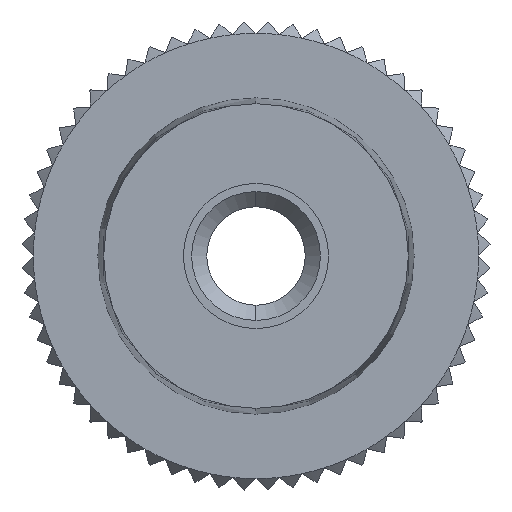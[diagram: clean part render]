
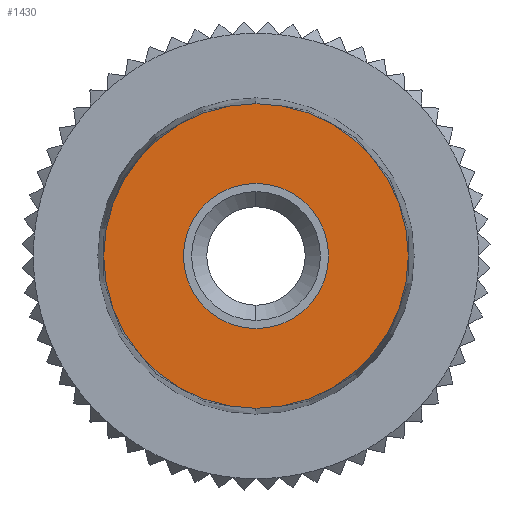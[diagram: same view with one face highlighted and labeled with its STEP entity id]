
A CAD part, front view. The second image highlights one B-rep face of the part: STEP entity #1430.
In plain terms, the highlighted planar face has unit normal (0, -1, 0).
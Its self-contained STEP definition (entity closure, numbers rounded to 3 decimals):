
#1430 = ADVANCED_FACE ( 'NONE', ( #5553, #5552 ), #5606, .T. ) ;
#1431 = EDGE_LOOP ( 'NONE', ( #1432, #1434 ) ) ;
#1432 = ORIENTED_EDGE ( 'NONE', *, *, #1433, .F. ) ;
#1433 = EDGE_CURVE ( 'NONE', #2519, #2515, #5597, .T. ) ;
#1434 = ORIENTED_EDGE ( 'NONE', *, *, #2514, .F. ) ;
#1435 = EDGE_LOOP ( 'NONE', ( #1436, #1438 ) ) ;
#1436 = ORIENTED_EDGE ( 'NONE', *, *, #1437, .T. ) ;
#1437 = EDGE_CURVE ( 'NONE', #2552, #2549, #5592, .T. ) ;
#1438 = ORIENTED_EDGE ( 'NONE', *, *, #2558, .T. ) ;
#2514 = EDGE_CURVE ( 'NONE', #2515, #2519, #6993, .T. ) ;
#2515 = VERTEX_POINT ( 'NONE', #6988 ) ;
#2519 = VERTEX_POINT ( 'NONE', #6982 ) ;
#2549 = VERTEX_POINT ( 'NONE', #7012 ) ;
#2552 = VERTEX_POINT ( 'NONE', #7011 ) ;
#2558 = EDGE_CURVE ( 'NONE', #2549, #2552, #7061, .T. ) ;
#5552 = FACE_OUTER_BOUND ( 'NONE', #1435, .T. ) ;
#5553 = FACE_BOUND ( 'NONE', #1431, .T. ) ;
#5588 = DIRECTION ( 'NONE',  ( 0., 0., -1. ) ) ;
#5589 = DIRECTION ( 'NONE',  ( 0., -1., 0. ) ) ;
#5590 = CARTESIAN_POINT ( 'NONE',  ( 0., 0., 0. ) ) ;
#5591 = AXIS2_PLACEMENT_3D ( 'NONE', #5590, #5589, #5588 ) ;
#5592 = CIRCLE ( 'NONE', #5591, 6.5 ) ;
#5593 = DIRECTION ( 'NONE',  ( 0., 0., -1. ) ) ;
#5594 = DIRECTION ( 'NONE',  ( 0., -1., 0. ) ) ;
#5595 = CARTESIAN_POINT ( 'NONE',  ( 0., 0., 0. ) ) ;
#5596 = AXIS2_PLACEMENT_3D ( 'NONE', #5595, #5594, #5593 ) ;
#5597 = CIRCLE ( 'NONE', #5596, 3.1 ) ;
#5598 = DIRECTION ( 'NONE',  ( 0., 0., -1. ) ) ;
#5599 = DIRECTION ( 'NONE',  ( 0., -1., 0. ) ) ;
#5600 = CARTESIAN_POINT ( 'NONE',  ( 0., 0., 0. ) ) ;
#5601 = AXIS2_PLACEMENT_3D ( 'NONE', #5600, #5599, #5598 ) ;
#5606 = PLANE ( 'NONE',  #5601 ) ;
#6982 = CARTESIAN_POINT ( 'NONE',  ( 0., 0., -3.1 ) ) ;
#6988 = CARTESIAN_POINT ( 'NONE',  ( 0., 0., 3.1 ) ) ;
#6989 = DIRECTION ( 'NONE',  ( 0., 0., -1. ) ) ;
#6990 = DIRECTION ( 'NONE',  ( 0., -1., 0. ) ) ;
#6991 = CARTESIAN_POINT ( 'NONE',  ( 0., 0., 0. ) ) ;
#6992 = AXIS2_PLACEMENT_3D ( 'NONE', #6991, #6990, #6989 ) ;
#6993 = CIRCLE ( 'NONE', #6992, 3.1 ) ;
#7011 = CARTESIAN_POINT ( 'NONE',  ( 0., 0., 6.5 ) ) ;
#7012 = CARTESIAN_POINT ( 'NONE',  ( 0., 0., -6.5 ) ) ;
#7057 = DIRECTION ( 'NONE',  ( 0., 0., -1. ) ) ;
#7058 = DIRECTION ( 'NONE',  ( 0., -1., 0. ) ) ;
#7059 = CARTESIAN_POINT ( 'NONE',  ( 0., 0., 0. ) ) ;
#7060 = AXIS2_PLACEMENT_3D ( 'NONE', #7059, #7058, #7057 ) ;
#7061 = CIRCLE ( 'NONE', #7060, 6.5 ) ;
